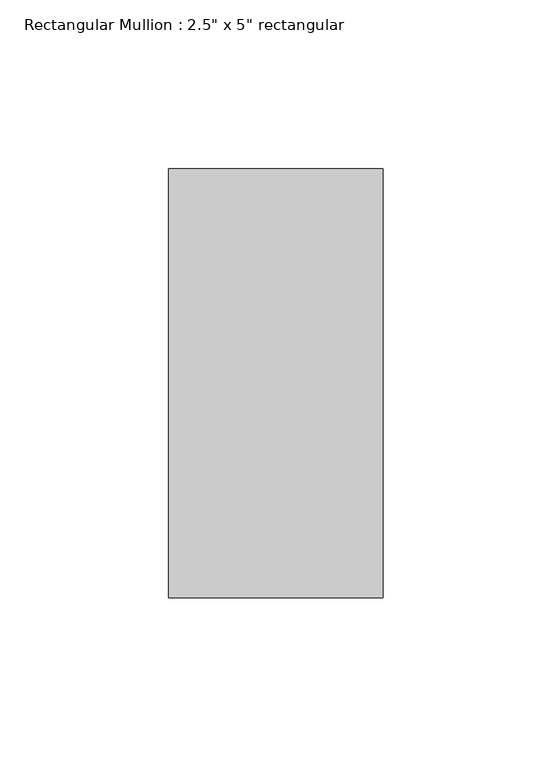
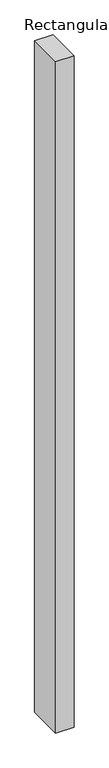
"""IFC4 building model written with IfcOpenShell, lengths in millimetres: member geometry."""

from ifc_helpers import new_model, si_unit, frame, origin, place, context, project, spatial, polyline, outline, extrude, source, transform, mapped, element, save


def member_887e70fb(model_context):
    return source(origin(), model_context, "Body", "SweptSolid", [
        extrude(outline(polyline([(0.0, 63.5), (0.0, -63.5), (-63.5, -63.5), (-63.5, 63.5), (0.0, 63.5)])), frame((0.0, 0.0, -2476.4999998), z_axis=(0.0, 0.0, 1.0), x_axis=(1.0, 0.0, 0.0)), (0.0, 0.0, 1.0), 2476.4999998),
    ])


if __name__ == "__main__":
    model = new_model("IFC4")
    model_context = context("Model", 3, world=origin())
    ifc_project = project(units=[si_unit("LENGTHUNIT", "METRE", prefix="MILLI")], contexts=[model_context])
    site = spatial("IfcSite", under=ifc_project)
    building = spatial("IfcBuilding", under=site)
    placement = place(None, origin())
    member_shape = member_887e70fb(model_context)
    element("IfcMember", 1, ObjectType="Rectangular Mullion : 2.5\" x 5\" rectangular", at=placement, inside=building, context=model_context, shape_type="MappedRepresentation", body=[
        mapped(member_shape, transform((0.0, 0.0, 0.0), x_axis=(1.0, 0.0, 0.0), y_axis=(0.0, 1.0, 0.0), z_axis=(0.0, 0.0, 1.0))),
    ])
    save(model, "model.ifc")
